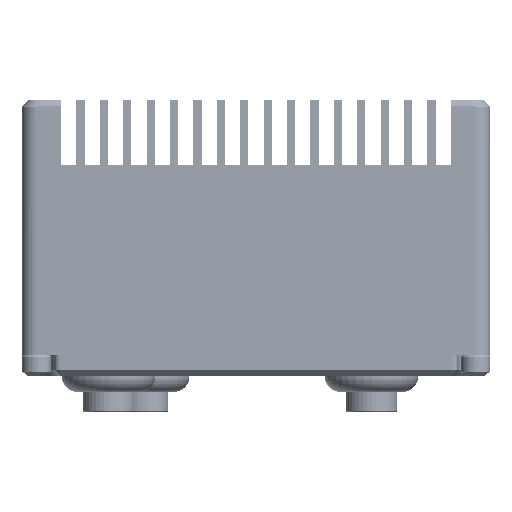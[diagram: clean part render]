
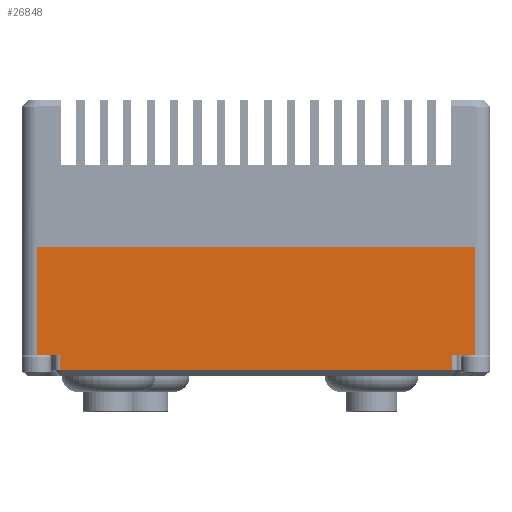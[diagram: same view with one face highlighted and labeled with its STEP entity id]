
A CAD part, front view. The second image highlights one B-rep face of the part: STEP entity #26848.
In plain terms, the highlighted planar face has unit normal (0, -1, 0).
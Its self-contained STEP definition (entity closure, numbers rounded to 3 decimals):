
#3854=FACE_OUTER_BOUND('',#33231,.T.);
#8485=LINE('',#115511,#15455);
#8486=LINE('',#115514,#15456);
#8487=LINE('',#115516,#15457);
#8488=LINE('',#115518,#15458);
#8489=LINE('',#115520,#15459);
#8490=LINE('',#115522,#15460);
#8491=LINE('',#115524,#15461);
#8492=LINE('',#115526,#15462);
#15455=VECTOR('',#76731,1.);
#15456=VECTOR('',#76732,1.);
#15457=VECTOR('',#76733,1.);
#15458=VECTOR('',#76734,1.);
#15459=VECTOR('',#76735,1.);
#15460=VECTOR('',#76736,1.);
#15461=VECTOR('',#76737,1.);
#15462=VECTOR('',#76738,1.);
#26848=ADVANCED_FACE('',(#3854),#29685,.T.);
#29685=PLANE('',#68555);
#33231=EDGE_LOOP('',(#42585,#42586,#42587,#42588,#42589,#42590,#42591,#42592));
#42585=ORIENTED_EDGE('',*,*,#61409,.T.);
#42586=ORIENTED_EDGE('',*,*,#61410,.T.);
#42587=ORIENTED_EDGE('',*,*,#61411,.T.);
#42588=ORIENTED_EDGE('',*,*,#61412,.T.);
#42589=ORIENTED_EDGE('',*,*,#61413,.T.);
#42590=ORIENTED_EDGE('',*,*,#61414,.F.);
#42591=ORIENTED_EDGE('',*,*,#61415,.T.);
#42592=ORIENTED_EDGE('',*,*,#61416,.T.);
#54615=VERTEX_POINT('',#115512);
#54616=VERTEX_POINT('',#115513);
#54617=VERTEX_POINT('',#115515);
#54618=VERTEX_POINT('',#115517);
#54619=VERTEX_POINT('',#115519);
#54620=VERTEX_POINT('',#115521);
#54621=VERTEX_POINT('',#115523);
#54622=VERTEX_POINT('',#115525);
#61409=EDGE_CURVE('',#54615,#54616,#8485,.T.);
#61410=EDGE_CURVE('',#54616,#54617,#8486,.T.);
#61411=EDGE_CURVE('',#54617,#54618,#8487,.T.);
#61412=EDGE_CURVE('',#54618,#54619,#8488,.T.);
#61413=EDGE_CURVE('',#54619,#54620,#8489,.T.);
#61414=EDGE_CURVE('',#54621,#54620,#8490,.T.);
#61415=EDGE_CURVE('',#54621,#54622,#8491,.T.);
#61416=EDGE_CURVE('',#54622,#54615,#8492,.T.);
#68555=AXIS2_PLACEMENT_3D('',#115527,#76739,#76740);
#76731=DIRECTION('',(0.,0.,-1.));
#76732=DIRECTION('',(1.,0.,0.));
#76733=DIRECTION('',(0.,0.,1.));
#76734=DIRECTION('',(1.,0.,0.));
#76735=DIRECTION('',(0.,0.,1.));
#76736=DIRECTION('',(1.,0.,0.));
#76737=DIRECTION('',(0.,0.,-1.));
#76738=DIRECTION('',(1.,0.,0.));
#76739=DIRECTION('',(0.,-1.,0.));
#76740=DIRECTION('',(1.,0.,0.));
#115511=CARTESIAN_POINT('',(-9.222,-32.982,-16.6));
#115512=CARTESIAN_POINT('',(-9.222,-32.982,-18.6));
#115513=CARTESIAN_POINT('',(-9.222,-32.982,-21.1));
#115514=CARTESIAN_POINT('',(-15.722,-32.982,-21.1));
#115515=CARTESIAN_POINT('',(57.778,-32.982,-21.1));
#115516=CARTESIAN_POINT('',(57.778,-32.982,-16.6));
#115517=CARTESIAN_POINT('',(57.778,-32.982,-18.6));
#115518=CARTESIAN_POINT('',(57.278,-32.982,-18.6));
#115519=CARTESIAN_POINT('',(61.778,-32.982,-18.6));
#115520=CARTESIAN_POINT('',(61.778,-32.982,-16.6));
#115521=CARTESIAN_POINT('',(61.778,-32.982,0.));
#115522=CARTESIAN_POINT('',(39.978,-32.982,0.));
#115523=CARTESIAN_POINT('',(-13.222,-32.982,0.));
#115524=CARTESIAN_POINT('',(-13.222,-32.982,-16.6));
#115525=CARTESIAN_POINT('',(-13.222,-32.982,-18.6));
#115526=CARTESIAN_POINT('',(-12.722,-32.982,-18.6));
#115527=CARTESIAN_POINT('',(-15.722,-32.982,-16.6));
